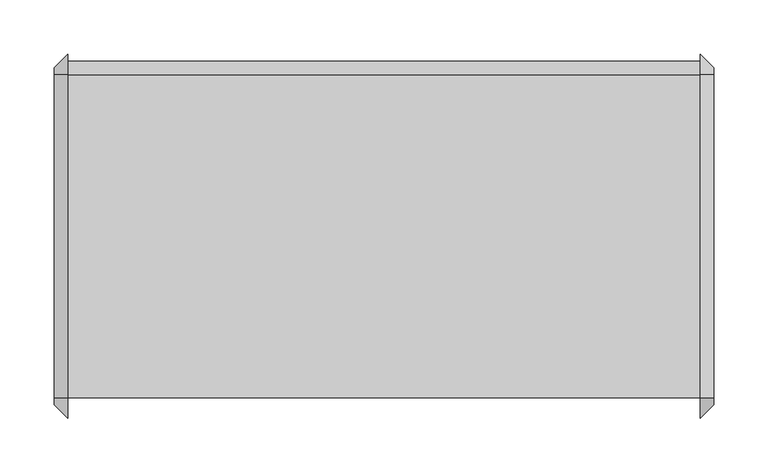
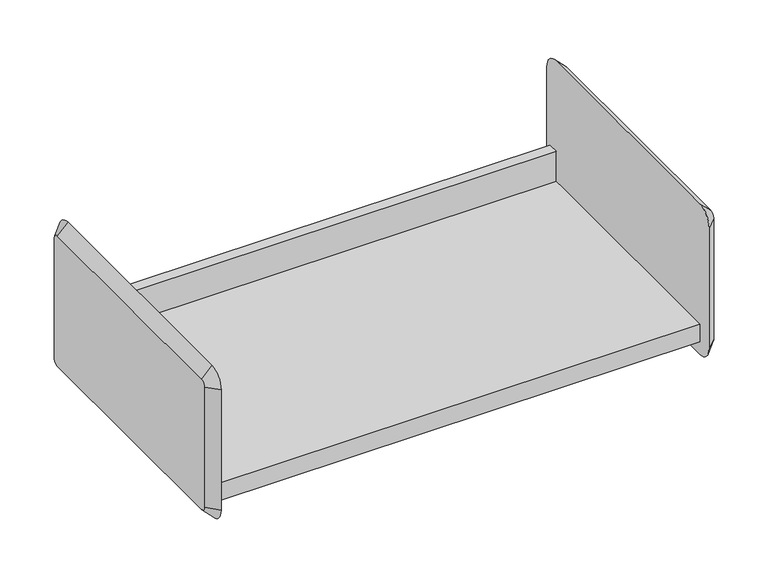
"""IFC4 building model written with IfcOpenShell, lengths in millimetres: furniture geometry."""

from ifc_helpers import new_model, si_unit, frame, origin, place, context, project, spatial, polyline, circle_curve, outline, extrude, source, transform, mapped, element, save
from ifc_brep_helpers import plane_surface, revolved_surface, advanced_brep


def furniture_f44b4fd4(model_context):
    return source(origin(), model_context, "Body", "SolidModel", [
        extrude(outline(polyline([(-136.525, 1384.3), (161.925, 1384.3), (161.925, 1422.4), (174.625, 1422.4), (174.625, 1419.225), (165.1, 1419.225), (165.1, 1381.125), (-133.35, 1381.125), (-133.35, 1362.075), (-136.525, 1362.075), (-136.525, 1384.3)])), frame((-416.0420045, 0.0, 0.0), z_axis=(1.0, 0.0, 0.0), x_axis=(0.0, 1.0, 0.0)), (0.0, 0.0, 1.0), 584.2),
        advanced_brep(
        [(180.8579955, 161.925, 1524.0), (180.8579955, -136.525, 1524.0), (180.8579955, -142.875, 1517.65), (180.8579955, -142.875, 1365.25), (180.8579955, -136.525, 1358.9), (180.8579955, 161.925, 1358.9), (180.8579955, 168.275, 1365.25), (180.8579955, 168.275, 1517.65), (168.1579955, 161.925, 1536.7), (168.1579955, 180.975, 1517.65), (168.1579955, 180.975, 1365.25), (168.1579955, 161.925, 1346.2), (168.1579955, -136.525, 1346.2), (168.1579955, -155.575, 1365.25), (168.1579955, -155.575, 1517.65), (168.1579955, -136.525, 1536.7)],
        [
            (0, 1),
            (1, 2, circle_curve(frame((180.8579955, -136.525, 1517.65), z_axis=(1.0, 2.0730084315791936e-12, -2.1742607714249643e-12), x_axis=(2.1742640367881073e-12, 0.0, 1.0)), 6.35)),
            (2, 3),
            (3, 4, circle_curve(frame((180.8579955, -136.525, 1365.25), z_axis=(1.0, 2.062350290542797e-12, 2.0463630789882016e-12), x_axis=(2.062316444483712e-12, -1.0, 0.0)), 6.35)),
            (4, 5),
            (5, 6, circle_curve(frame((180.8579955, 161.925, 1365.25), z_axis=(1.0, 2.088995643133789e-12, -2.1103119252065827e-12), x_axis=(-2.1103612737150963e-12, 0.0, -1.0)), 6.35)),
            (6, 7),
            (7, 0, circle_curve(frame((180.8579955, 161.925, 1517.65), z_axis=(1.0, 2.075672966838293e-12, 1.9824142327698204e-12), x_axis=(-2.075662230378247e-12, 1.0, 0.0)), 6.35)),
            (8, 9, circle_curve(frame((168.1579955, 161.925, 1517.65), z_axis=(-1.0, -2.075672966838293e-12, -1.9824142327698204e-12), x_axis=(-2.075662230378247e-12, 1.0, 0.0)), 19.05)),
            (9, 10),
            (10, 11, circle_curve(frame((168.1579955, 161.925, 1365.25), z_axis=(-1.0, -2.088995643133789e-12, 2.1103119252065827e-12), x_axis=(-2.1103612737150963e-12, 0.0, -1.0)), 19.05)),
            (11, 12),
            (12, 13, circle_curve(frame((168.1579955, -136.525, 1365.25), z_axis=(-1.0, -2.062350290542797e-12, -2.0463630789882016e-12), x_axis=(2.062316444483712e-12, -1.0, 0.0)), 19.05)),
            (13, 14),
            (14, 15, circle_curve(frame((168.1579955, -136.525, 1517.65), z_axis=(-1.0, -2.0730084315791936e-12, 2.1742607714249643e-12), x_axis=(2.1742640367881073e-12, 0.0, 1.0)), 19.05)),
            (15, 8),
            (15, 1),
            (0, 8),
            (14, 2),
            (13, 3),
            (12, 4),
            (11, 5),
            (10, 6),
            (9, 7),
        ],
        [
            plane_surface(frame((180.8579955, 12.7, 1441.45), z_axis=(1.0, 0.0, 0.0), x_axis=(0.0, -1.0, 0.0))),
            plane_surface(frame((168.1579955, 12.7, 1441.45), z_axis=(-1.0, 0.0, 0.0), x_axis=(0.0, -1.0, 0.0))),
            plane_surface(frame((168.1579955, 12.7, 1536.7), z_axis=(0.7071067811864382, 0.0, 0.7071067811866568), x_axis=(0.0, -1.0, 0.0))),
            revolved_surface(polyline([(180.8579955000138, -136.525, 1523.9999999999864), (168.1579955, -136.525, 1536.7)]), (187.2079955, -136.525, 1517.65), (-1.0, -2.0730084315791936e-12, 2.1742607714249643e-12)),
            plane_surface(frame((168.1579955, -155.575, 1441.45), z_axis=(0.707106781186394, -0.7071067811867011, 0.0), x_axis=(0.0, 0.0, -1.0))),
            revolved_surface(polyline([(180.8579955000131, -142.87499999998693, 1365.25), (168.1579955, -155.575, 1365.25)]), (187.2079955, -136.525, 1365.25), (-1.0, -2.062350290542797e-12, -2.0463630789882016e-12)),
            plane_surface(frame((168.1579955, 12.7, 1346.2), z_axis=(0.7071067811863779, 0.0, -0.7071067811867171), x_axis=(0.0, 1.0, 0.0))),
            revolved_surface(polyline([(180.8579955, 161.925, 1358.9), (168.15799549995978, 161.925, 1346.1999999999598)]), (187.2079955, 161.925, 1365.25), (-1.0, -2.088995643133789e-12, 2.1103119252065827e-12)),
            plane_surface(frame((168.1579955, 180.975, 1441.45), z_axis=(0.707106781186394, 0.7071067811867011, 0.0), x_axis=(0.0, 0.0, 1.0))),
            revolved_surface(polyline([(180.8579955, 168.27500000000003, 1517.65), (168.15799549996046, 180.97500000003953, 1517.65)]), (187.2079955, 161.925, 1517.65), (-1.0, -2.075672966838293e-12, -1.9824142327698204e-12)),
        ],
        [
            (0, [[1, 2, 3, 4, 5, 6, 7, 8]]),
            (1, [[9, 10, 11, 12, 13, 14, 15, 16]]),
            (2, [[-16, 17, -1, 18]]),
            (3, [[-15, 19, -2, -17]]),
            (4, [[-14, 20, -3, -19]]),
            (5, [[-13, 21, -4, -20]]),
            (6, [[-12, 22, -5, -21]]),
            (7, [[-11, 23, -6, -22]]),
            (8, [[-10, 24, -7, -23]]),
            (9, [[-9, -18, -8, -24]]),
        ],
    ),
        advanced_brep(
        [(-428.7420045, -136.525, 1524.0), (-428.7420045, 161.925, 1524.0), (-428.7420045, 168.275, 1517.65), (-428.7420045, 168.275, 1365.25), (-428.7420045, 161.925, 1358.9), (-428.7420045, -136.525, 1358.9), (-428.7420045, -142.875, 1365.25), (-428.7420045, -142.875, 1517.65), (-416.0420045, -136.525, 1536.7), (-416.0420045, -155.575, 1517.65), (-416.0420045, -155.575, 1365.25), (-416.0420045, -136.525, 1346.2), (-416.0420045, 161.925, 1346.2), (-416.0420045, 180.975, 1365.25), (-416.0420045, 180.975, 1517.65), (-416.0420045, 161.925, 1536.7)],
        [
            (0, 1),
            (1, 2, circle_curve(frame((-428.7420045, 161.925, 1517.65), z_axis=(-1.0, 0.0, 0.0), x_axis=(0.0, 0.0, 1.0)), 6.35)),
            (2, 3),
            (3, 4, circle_curve(frame((-428.7420045, 161.925, 1365.25), z_axis=(-1.0, 0.0, 0.0), x_axis=(0.0, 1.0, 0.0)), 6.35)),
            (4, 5),
            (5, 6, circle_curve(frame((-428.7420045, -136.525, 1365.25), z_axis=(-1.0, 0.0, 0.0), x_axis=(0.0, 0.0, -1.0)), 6.35)),
            (6, 7),
            (7, 0, circle_curve(frame((-428.7420045, -136.525, 1517.65), z_axis=(-1.0, 0.0, 0.0), x_axis=(0.0, -1.0, 0.0)), 6.35)),
            (8, 9, circle_curve(frame((-416.0420045, -136.525, 1517.65), z_axis=(1.0, 0.0, 0.0), x_axis=(0.0, -1.0, 0.0)), 19.05)),
            (9, 10),
            (10, 11, circle_curve(frame((-416.0420045, -136.525, 1365.25), z_axis=(1.0, 0.0, 0.0), x_axis=(0.0, 0.0, -1.0)), 19.05)),
            (11, 12),
            (12, 13, circle_curve(frame((-416.0420045, 161.925, 1365.25), z_axis=(1.0, 0.0, 0.0), x_axis=(0.0, 1.0, 0.0)), 19.05)),
            (13, 14),
            (14, 15, circle_curve(frame((-416.0420045, 161.925, 1517.65), z_axis=(1.0, 0.0, 0.0), x_axis=(0.0, 0.0, 1.0)), 19.05)),
            (15, 8),
            (15, 1),
            (0, 8),
            (14, 2),
            (13, 3),
            (12, 4),
            (11, 5),
            (10, 6),
            (9, 7),
        ],
        [
            plane_surface(frame((-428.7420045, 12.7, 1441.45), z_axis=(-1.0, 0.0, 0.0), x_axis=(0.0, -1.0, 0.0))),
            plane_surface(frame((-416.0420045, 12.7, 1441.45), z_axis=(1.0, 0.0, 0.0), x_axis=(0.0, -1.0, 0.0))),
            plane_surface(frame((-416.0420045, 12.7, 1536.7), z_axis=(-0.7071067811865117, 0.0, 0.7071067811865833), x_axis=(0.0, 1.0, 0.0))),
            revolved_surface(polyline([(-428.7420045, 161.925, 1524.0), (-416.0420045, 161.925, 1536.7)]), (-435.0920045, 161.925, 1517.65), (1.0, 0.0, 0.0)),
            plane_surface(frame((-416.0420045, 180.975, 1441.45), z_axis=(-0.7071067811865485, 0.7071067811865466, 0.0), x_axis=(0.0, 0.0, -1.0))),
            revolved_surface(polyline([(-428.7420045, 168.27499999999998, 1365.25), (-416.0420045, 180.975, 1365.25)]), (-435.0920045, 161.925, 1365.25), (1.0, 0.0, 0.0)),
            plane_surface(frame((-416.0420045, 12.7, 1346.2), z_axis=(-0.707106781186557, 0.0, -0.7071067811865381), x_axis=(0.0, -1.0, 0.0))),
            revolved_surface(polyline([(-428.7420045, -136.525, 1358.9), (-416.0420045, -136.525, 1346.2)]), (-435.0920045, -136.525, 1365.25), (1.0, 0.0, 0.0)),
            plane_surface(frame((-416.0420045, -155.575, 1441.45), z_axis=(-0.7071067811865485, -0.7071067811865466, 0.0), x_axis=(0.0, 0.0, 1.0))),
            revolved_surface(polyline([(-428.7420045, -142.87499999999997, 1517.65), (-416.0420045, -155.575, 1517.65)]), (-435.0920045, -136.525, 1517.65), (1.0, 0.0, 0.0)),
        ],
        [
            (0, [[1, 2, 3, 4, 5, 6, 7, 8]]),
            (1, [[9, 10, 11, 12, 13, 14, 15, 16]]),
            (2, [[-16, 17, -1, 18]]),
            (3, [[-15, 19, -2, -17]]),
            (4, [[-14, 20, -3, -19]]),
            (5, [[-13, 21, -4, -20]]),
            (6, [[-12, 22, -5, -21]]),
            (7, [[-11, 23, -6, -22]]),
            (8, [[-10, 24, -7, -23]]),
            (9, [[-9, -18, -8, -24]]),
        ],
    ),
    ])


if __name__ == "__main__":
    model = new_model("IFC4")
    model_context = context("Model", 3, world=origin())
    ifc_project = project(units=[si_unit("LENGTHUNIT", "METRE", prefix="MILLI")], contexts=[model_context])
    site = spatial("IfcSite", under=ifc_project)
    building = spatial("IfcBuilding", under=site)
    placement = place(None, origin())
    furniture_shape = furniture_f44b4fd4(model_context)
    element("IfcFurniture", 1, ObjectType="HermanMiller_ActionOffice_A3220_B-StyleStorageDisplay : Shelf 13\"D x 24\"W", at=placement, inside=building, context=model_context, shape_type="MappedRepresentation", body=[
        mapped(furniture_shape, transform((0.0, 0.0, 0.0), x_axis=(1.0, 0.0, 0.0), y_axis=(0.0, 1.0, 0.0), z_axis=(0.0, 0.0, 1.0))),
    ])
    save(model, "model.ifc")
